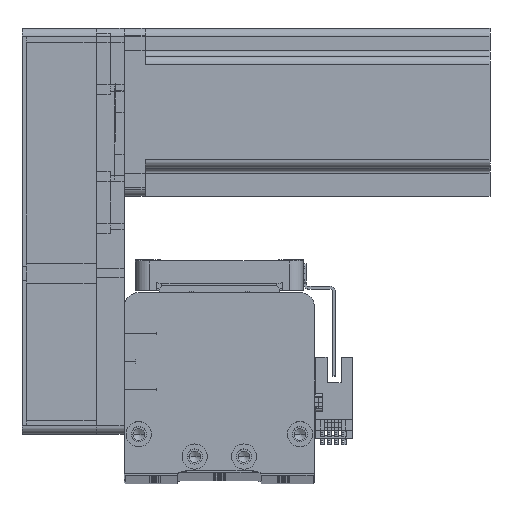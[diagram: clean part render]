
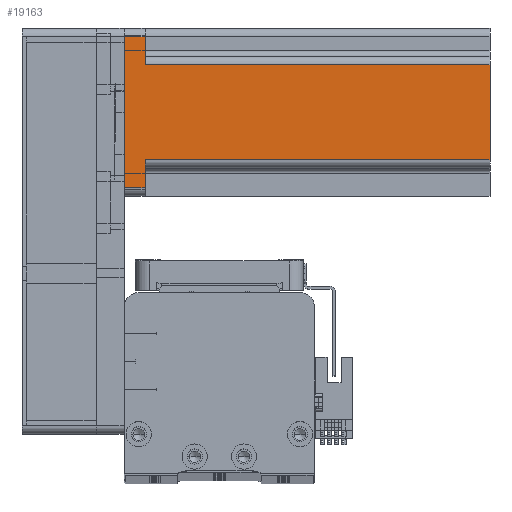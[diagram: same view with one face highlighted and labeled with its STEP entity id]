
A CAD part, top view. The second image highlights one B-rep face of the part: STEP entity #19163.
In plain terms, the highlighted planar face has unit normal (0, 0, 1) as drawn and (0, 1, 0) by its records, which use the part's own axes.
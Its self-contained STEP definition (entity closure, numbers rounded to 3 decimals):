
#291 = VECTOR ( 'NONE', #38557, 1000. ) ;
#620 = LINE ( 'NONE', #9947, #23131 ) ;
#803 = CARTESIAN_POINT ( 'NONE',  ( 17., 30., 130.7 ) ) ;
#945 = VERTEX_POINT ( 'NONE', #20539 ) ;
#2687 = ORIENTED_EDGE ( 'NONE', *, *, #47213, .T. ) ;
#3770 = LINE ( 'NONE', #35748, #9103 ) ;
#5494 = CARTESIAN_POINT ( 'NONE',  ( -17., 30., 130.7 ) ) ;
#6254 = VECTOR ( 'NONE', #47799, 1000. ) ;
#6571 = VERTEX_POINT ( 'NONE', #40071 ) ;
#9052 = CARTESIAN_POINT ( 'NONE',  ( 30., 30., 130.7 ) ) ;
#9103 = VECTOR ( 'NONE', #10429, 1000. ) ;
#9143 = CARTESIAN_POINT ( 'NONE',  ( 17., 30., 7.5 ) ) ;
#9218 = ORIENTED_EDGE ( 'NONE', *, *, #30980, .T. ) ;
#9342 = CARTESIAN_POINT ( 'NONE',  ( 20., 30., 7.5 ) ) ;
#9947 = CARTESIAN_POINT ( 'NONE',  ( 17., 30., 130.7 ) ) ;
#9972 = CARTESIAN_POINT ( 'NONE',  ( 30., 30., 130.7 ) ) ;
#10429 = DIRECTION ( 'NONE',  ( -1., 0., 0. ) ) ;
#10884 = ORIENTED_EDGE ( 'NONE', *, *, #46414, .F. ) ;
#11130 = VECTOR ( 'NONE', #12886, 1000. ) ;
#11529 = VERTEX_POINT ( 'NONE', #9143 ) ;
#11711 = ORIENTED_EDGE ( 'NONE', *, *, #49614, .T. ) ;
#12475 = LINE ( 'NONE', #17132, #11130 ) ;
#12886 = DIRECTION ( 'NONE',  ( 0., 0., 1. ) ) ;
#13301 = DIRECTION ( 'NONE',  ( 1., 0., 0. ) ) ;
#14576 = LINE ( 'NONE', #19957, #48232 ) ;
#17132 = CARTESIAN_POINT ( 'NONE',  ( -27., 30., 130.7 ) ) ;
#18271 = DIRECTION ( 'NONE',  ( 0., 0., 1. ) ) ;
#19163 = ADVANCED_FACE ( 'NONE', ( #27869 ), #46850, .F. ) ;
#19957 = CARTESIAN_POINT ( 'NONE',  ( 27., 30., 130.7 ) ) ;
#20539 = CARTESIAN_POINT ( 'NONE',  ( -27., 30., 0. ) ) ;
#22679 = ORIENTED_EDGE ( 'NONE', *, *, #44342, .F. ) ;
#23099 = VECTOR ( 'NONE', #18271, 1000. ) ;
#23131 = VECTOR ( 'NONE', #39499, 1000. ) ;
#24220 = DIRECTION ( 'NONE',  ( 0., 0., -1. ) ) ;
#25537 = CARTESIAN_POINT ( 'NONE',  ( -17., 30., 7.5 ) ) ;
#26049 = CARTESIAN_POINT ( 'NONE',  ( -20., 30., 7.5 ) ) ;
#27869 = FACE_OUTER_BOUND ( 'NONE', #31986, .T. ) ;
#29487 = VERTEX_POINT ( 'NONE', #803 ) ;
#30679 = VERTEX_POINT ( 'NONE', #46454 ) ;
#30980 = EDGE_CURVE ( 'NONE', #30679, #945, #3770, .T. ) ;
#31986 = EDGE_LOOP ( 'NONE', ( #11711, #50591, #22679, #43198, #10884, #2687, #9218, #36710 ) ) ;
#35225 = CARTESIAN_POINT ( 'NONE',  ( -27., 30., 7.5 ) ) ;
#35652 = AXIS2_PLACEMENT_3D ( 'NONE', #9052, #38591, #13301 ) ;
#35748 = CARTESIAN_POINT ( 'NONE',  ( 30., 30., 0. ) ) ;
#35911 = VECTOR ( 'NONE', #38880, 1000. ) ;
#36710 = ORIENTED_EDGE ( 'NONE', *, *, #48000, .T. ) ;
#38544 = LINE ( 'NONE', #9342, #35911 ) ;
#38557 = DIRECTION ( 'NONE',  ( 1., 0., 0. ) ) ;
#38591 = DIRECTION ( 'NONE',  ( 0., -1., 0. ) ) ;
#38880 = DIRECTION ( 'NONE',  ( -1., 0., 0. ) ) ;
#39499 = DIRECTION ( 'NONE',  ( 0., 0., -1. ) ) ;
#40071 = CARTESIAN_POINT ( 'NONE',  ( -17., 30., 130.7 ) ) ;
#42794 = EDGE_CURVE ( 'NONE', #29487, #11529, #620, .T. ) ;
#43198 = ORIENTED_EDGE ( 'NONE', *, *, #42794, .T. ) ;
#43383 = VERTEX_POINT ( 'NONE', #35225 ) ;
#44342 = EDGE_CURVE ( 'NONE', #29487, #6571, #48519, .T. ) ;
#45532 = LINE ( 'NONE', #5494, #23099 ) ;
#46414 = EDGE_CURVE ( 'NONE', #49913, #11529, #38544, .T. ) ;
#46454 = CARTESIAN_POINT ( 'NONE',  ( 27., 30., 0. ) ) ;
#46575 = LINE ( 'NONE', #26049, #291 ) ;
#46850 = PLANE ( 'NONE',  #35652 ) ;
#47213 = EDGE_CURVE ( 'NONE', #49913, #30679, #14576, .T. ) ;
#47620 = EDGE_CURVE ( 'NONE', #53609, #6571, #45532, .T. ) ;
#47799 = DIRECTION ( 'NONE',  ( -1., 0., 0. ) ) ;
#48000 = EDGE_CURVE ( 'NONE', #945, #43383, #12475, .T. ) ;
#48232 = VECTOR ( 'NONE', #24220, 1000. ) ;
#48519 = LINE ( 'NONE', #9972, #6254 ) ;
#49614 = EDGE_CURVE ( 'NONE', #43383, #53609, #46575, .T. ) ;
#49913 = VERTEX_POINT ( 'NONE', #53430 ) ;
#50591 = ORIENTED_EDGE ( 'NONE', *, *, #47620, .T. ) ;
#53430 = CARTESIAN_POINT ( 'NONE',  ( 27., 30., 7.5 ) ) ;
#53609 = VERTEX_POINT ( 'NONE', #25537 ) ;
